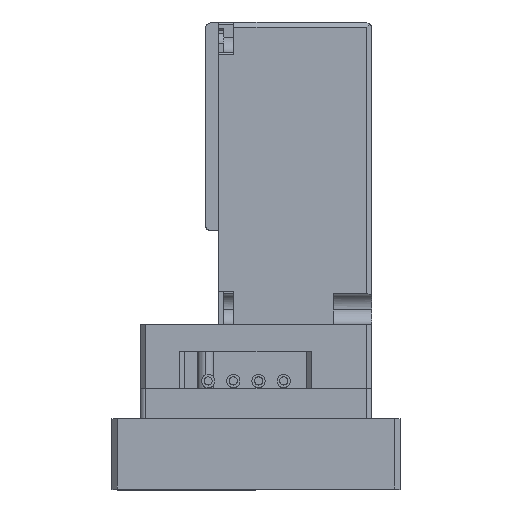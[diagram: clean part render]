
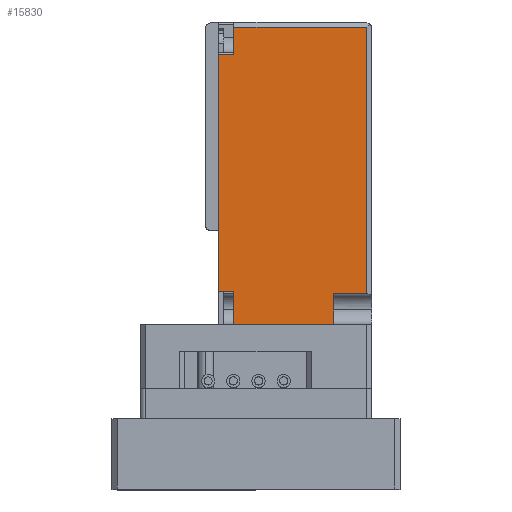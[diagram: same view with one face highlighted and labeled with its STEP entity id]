
A CAD part, top view. The second image highlights one B-rep face of the part: STEP entity #15830.
In plain terms, the highlighted planar face has unit normal (0, 0, 1).
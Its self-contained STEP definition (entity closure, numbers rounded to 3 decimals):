
#302 = CARTESIAN_POINT ( 'NONE',  ( -6.45, 31.15, 31.5 ) ) ;
#362 = EDGE_CURVE ( 'NONE', #1427, #9206, #15909, .T. ) ;
#412 = VECTOR ( 'NONE', #15206, 1000. ) ;
#1104 = EDGE_CURVE ( 'NONE', #15665, #6972, #5805, .T. ) ;
#1202 = DIRECTION ( 'NONE',  ( 0., 1., 0. ) ) ;
#1303 = ORIENTED_EDGE ( 'NONE', *, *, #14879, .F. ) ;
#1427 = VERTEX_POINT ( 'NONE', #8653 ) ;
#1550 = VERTEX_POINT ( 'NONE', #10534 ) ;
#1644 = CARTESIAN_POINT ( 'NONE',  ( -6.45, 33.85, 31.5 ) ) ;
#2016 = EDGE_LOOP ( 'NONE', ( #2936, #13721, #12746, #3694, #6948, #2962, #9772, #1303, #10747, #12105 ) ) ;
#2165 = LINE ( 'NONE', #16201, #11565 ) ;
#2909 = VECTOR ( 'NONE', #12052, 1000. ) ;
#2936 = ORIENTED_EDGE ( 'NONE', *, *, #13468, .F. ) ;
#2962 = ORIENTED_EDGE ( 'NONE', *, *, #8112, .F. ) ;
#3409 = CARTESIAN_POINT ( 'NONE',  ( -7.95, 4.35, 31.5 ) ) ;
#3694 = ORIENTED_EDGE ( 'NONE', *, *, #362, .F. ) ;
#4215 = VERTEX_POINT ( 'NONE', #11212 ) ;
#4675 = FACE_OUTER_BOUND ( 'NONE', #2016, .T. ) ;
#4804 = VERTEX_POINT ( 'NONE', #8515 ) ;
#4931 = VERTEX_POINT ( 'NONE', #302 ) ;
#4961 = DIRECTION ( 'NONE',  ( -1., 0., 0. ) ) ;
#5002 = VECTOR ( 'NONE', #6118, 1000. ) ;
#5193 = EDGE_CURVE ( 'NONE', #4804, #4215, #11364, .T. ) ;
#5514 = VERTEX_POINT ( 'NONE', #8838 ) ;
#5805 = LINE ( 'NONE', #14123, #7354 ) ;
#6019 = VECTOR ( 'NONE', #14425, 1000. ) ;
#6118 = DIRECTION ( 'NONE',  ( 0., -1., 0. ) ) ;
#6233 = VECTOR ( 'NONE', #4961, 1000. ) ;
#6673 = VECTOR ( 'NONE', #6836, 1000. ) ;
#6836 = DIRECTION ( 'NONE',  ( 1., 0., 0. ) ) ;
#6948 = ORIENTED_EDGE ( 'NONE', *, *, #11145, .T. ) ;
#6972 = VERTEX_POINT ( 'NONE', #8420 ) ;
#7342 = LINE ( 'NONE', #13603, #5002 ) ;
#7354 = VECTOR ( 'NONE', #7704, 1000. ) ;
#7648 = LINE ( 'NONE', #12064, #6673 ) ;
#7704 = DIRECTION ( 'NONE',  ( 1., 0., 0. ) ) ;
#7844 = VERTEX_POINT ( 'NONE', #10056 ) ;
#8112 = EDGE_CURVE ( 'NONE', #15665, #7844, #7342, .T. ) ;
#8420 = CARTESIAN_POINT ( 'NONE',  ( 8.25, 7.35, 31.5 ) ) ;
#8515 = CARTESIAN_POINT ( 'NONE',  ( -4.95, 33.85, 31.5 ) ) ;
#8653 = CARTESIAN_POINT ( 'NONE',  ( -4.95, 4.35, 31.5 ) ) ;
#8838 = CARTESIAN_POINT ( 'NONE',  ( -6.45, 7.55, 31.5 ) ) ;
#8851 = VECTOR ( 'NONE', #1202, 1000. ) ;
#9206 = VERTEX_POINT ( 'NONE', #10325 ) ;
#9619 = VECTOR ( 'NONE', #10992, 1000. ) ;
#9772 = ORIENTED_EDGE ( 'NONE', *, *, #1104, .T. ) ;
#9805 = CARTESIAN_POINT ( 'NONE',  ( -6.45, 7.55, 31.5 ) ) ;
#9905 = DIRECTION ( 'NONE',  ( 0., -1., 0. ) ) ;
#10056 = CARTESIAN_POINT ( 'NONE',  ( 4.95, 4.35, 31.5 ) ) ;
#10325 = CARTESIAN_POINT ( 'NONE',  ( -4.95, 7.55, 31.5 ) ) ;
#10534 = CARTESIAN_POINT ( 'NONE',  ( -4.95, 31.15, 31.5 ) ) ;
#10747 = ORIENTED_EDGE ( 'NONE', *, *, #5193, .F. ) ;
#10883 = PLANE ( 'NONE',  #15588 ) ;
#10991 = CARTESIAN_POINT ( 'NONE',  ( -6.45, 37.912, 31.5 ) ) ;
#10992 = DIRECTION ( 'NONE',  ( 1., 0., 0. ) ) ;
#11145 = EDGE_CURVE ( 'NONE', #1427, #7844, #11964, .T. ) ;
#11212 = CARTESIAN_POINT ( 'NONE',  ( 8.25, 33.85, 31.5 ) ) ;
#11364 = LINE ( 'NONE', #1644, #412 ) ;
#11565 = VECTOR ( 'NONE', #9905, 1000. ) ;
#11964 = LINE ( 'NONE', #3409, #9619 ) ;
#12052 = DIRECTION ( 'NONE',  ( 0., 1., 0. ) ) ;
#12064 = CARTESIAN_POINT ( 'NONE',  ( -6.45, 31.15, 31.5 ) ) ;
#12105 = ORIENTED_EDGE ( 'NONE', *, *, #12306, .F. ) ;
#12306 = EDGE_CURVE ( 'NONE', #1550, #4804, #16112, .T. ) ;
#12668 = CARTESIAN_POINT ( 'NONE',  ( -4.95, 37.912, 31.5 ) ) ;
#12746 = ORIENTED_EDGE ( 'NONE', *, *, #15375, .F. ) ;
#12914 = CARTESIAN_POINT ( 'NONE',  ( -4.95, 37.912, 31.5 ) ) ;
#13458 = DIRECTION ( 'NONE',  ( 0., 0., -1. ) ) ;
#13468 = EDGE_CURVE ( 'NONE', #4931, #1550, #7648, .T. ) ;
#13603 = CARTESIAN_POINT ( 'NONE',  ( 4.95, 37.912, 31.5 ) ) ;
#13721 = ORIENTED_EDGE ( 'NONE', *, *, #14392, .F. ) ;
#14123 = CARTESIAN_POINT ( 'NONE',  ( 8.75, 7.35, 31.5 ) ) ;
#14392 = EDGE_CURVE ( 'NONE', #5514, #4931, #15178, .T. ) ;
#14425 = DIRECTION ( 'NONE',  ( 0., 1., 0. ) ) ;
#14534 = CARTESIAN_POINT ( 'NONE',  ( 4.95, 7.35, 31.5 ) ) ;
#14864 = CARTESIAN_POINT ( 'NONE',  ( -6.45, 37.912, 31.5 ) ) ;
#14879 = EDGE_CURVE ( 'NONE', #4215, #6972, #2165, .T. ) ;
#15178 = LINE ( 'NONE', #14864, #8851 ) ;
#15206 = DIRECTION ( 'NONE',  ( 1., 0., 0. ) ) ;
#15375 = EDGE_CURVE ( 'NONE', #9206, #5514, #15727, .T. ) ;
#15588 = AXIS2_PLACEMENT_3D ( 'NONE', #10991, #13458, #16145 ) ;
#15665 = VERTEX_POINT ( 'NONE', #14534 ) ;
#15727 = LINE ( 'NONE', #9805, #6233 ) ;
#15830 = ADVANCED_FACE ( 'NONE', ( #4675 ), #10883, .F. ) ;
#15909 = LINE ( 'NONE', #12668, #2909 ) ;
#16112 = LINE ( 'NONE', #12914, #6019 ) ;
#16145 = DIRECTION ( 'NONE',  ( -1., 0., 0. ) ) ;
#16201 = CARTESIAN_POINT ( 'NONE',  ( 8.25, 20.85, 31.5 ) ) ;
